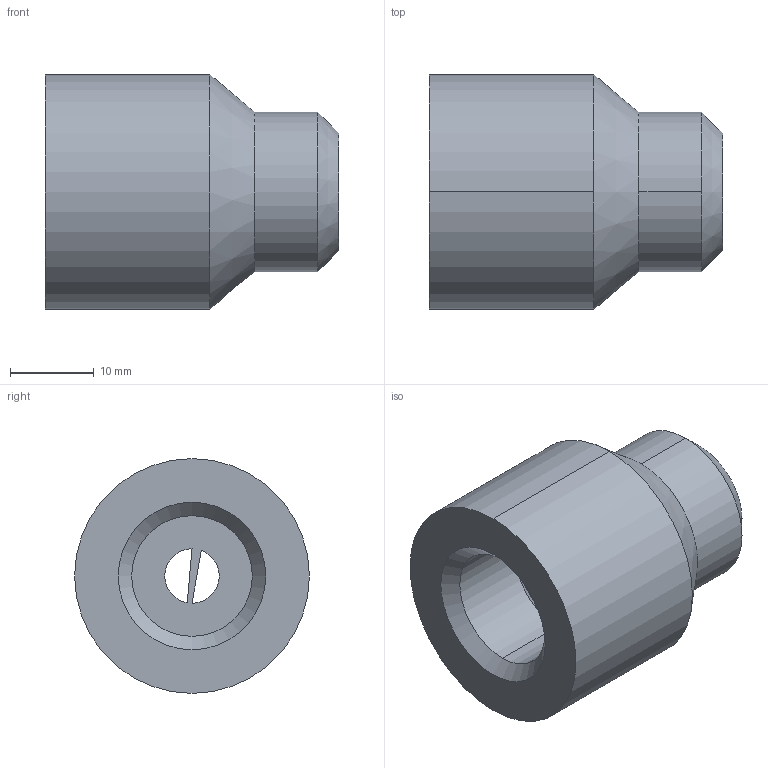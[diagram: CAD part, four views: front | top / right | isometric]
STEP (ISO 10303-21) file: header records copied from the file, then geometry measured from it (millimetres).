
FILE_DESCRIPTION(('TFLEX Exchange Step'),'2;1');
FILE_NAME('X2\0411043E0431044B0448043A0430\X0\ БПУ-М16-d6-М01.stp', '2020-10-13T21:02:59+05:00',('Alex'),('Unknown organisation'),'TFLEX Exchange 2019.1','T-FLEX CAD','Unknown authorisation');
FILE_SCHEMA( ('AUTOMOTIVE_DESIGN { 1 0 10303 214 1 1 1 1 }') );
Length unit declared in the file: millimetre
Products named in the file (1): Бобышка БПУ-М16-d6-М01
Bounding box: 35 x 28 x 28 mm (x, y, z)
Volume: 13753.7 mm3; surface area: 4707.6 mm2
Topology: 1 solids, 1 shells, 22 faces, 48 edges, 26 vertices
Faces by surface type: cylinder 10, cone 5, torus 4, plane 3
Entity records: 626 total; most frequent: DIRECTION 124, CARTESIAN_POINT 97, ORIENTED_EDGE 96, AXIS2_PLACEMENT_3D 53, EDGE_CURVE 48, CIRCLE 30, VERTEX_POINT 26, EDGE_LOOP 22
